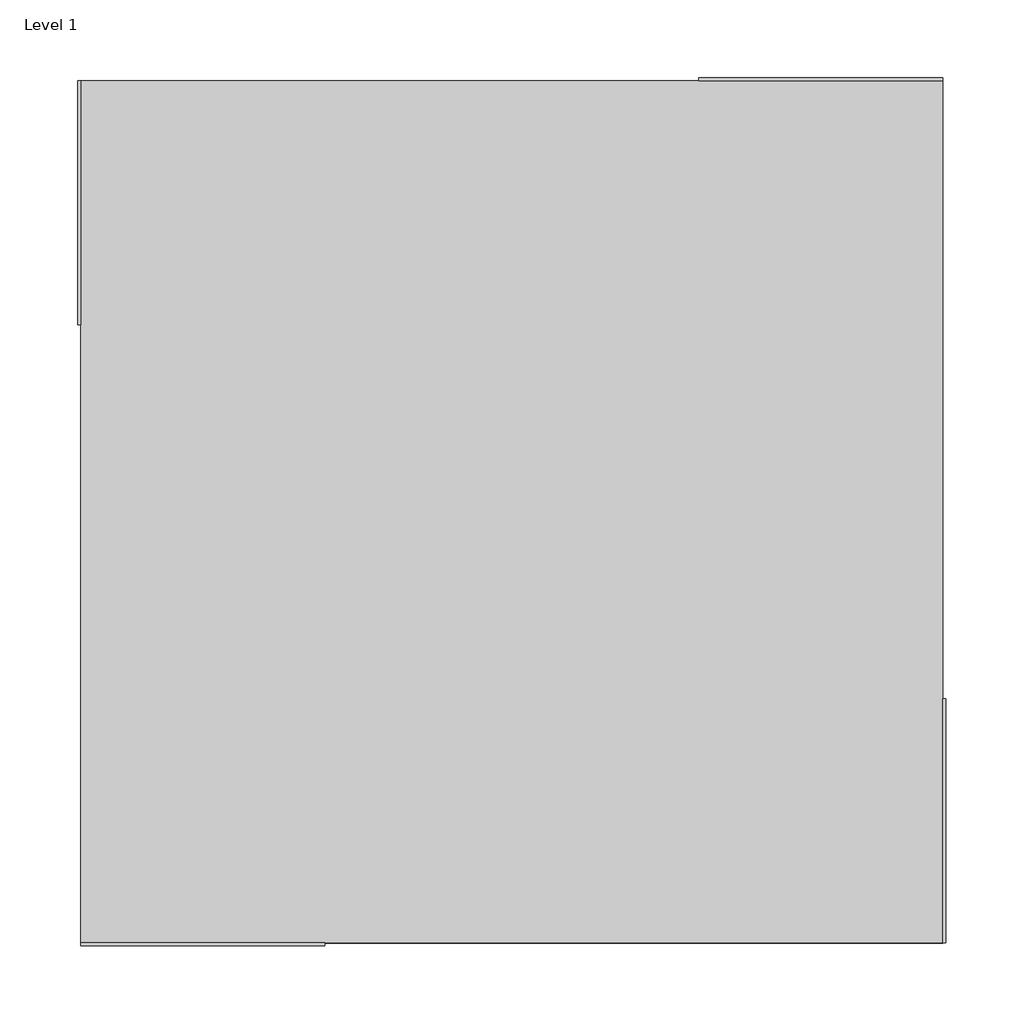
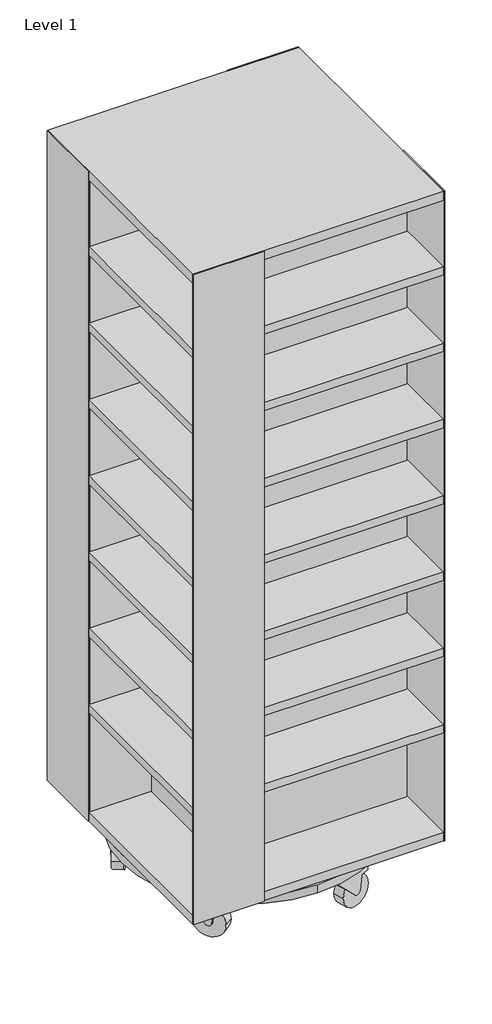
# One storey: 1 furniture element.
"""IFC4 building model written with IfcOpenShell, lengths in millimetres."""

from ifc_helpers import new_model, si_unit, origin, place, context, project, spatial, transform, mapped, element, save
from components import furniture_905f3809

model = new_model("IFC4")

# Units and contexts
model_context = context("Model", 3, world=origin())
ifc_project = project(units=[si_unit("LENGTHUNIT", "METRE", prefix="MILLI")], contexts=[model_context])

# Site, building, storey
site = spatial("IfcSite", under=ifc_project)
building = spatial("IfcBuilding", under=site)
storey = spatial("IfcBuildingStorey", under=building, Name="Level 1", Elevation=0.0)

# Furniture
placement = place(None, origin())
furniture_shape = furniture_905f3809(model_context)
element("IfcFurniture", 1, ObjectType="BK Library - Stina : BK Library - Stina", at=placement, inside=storey, context=model_context, shape_type="MappedRepresentation", body=[
    mapped(furniture_shape, transform((-2769.7402318, 2197.9079464, -688.6569781), x_axis=(0.0, 1.0, 0.0), y_axis=(-1.0, 0.0, 0.0), z_axis=(0.0, 0.0, 1.0))),
])

save(model, "model.ifc")
